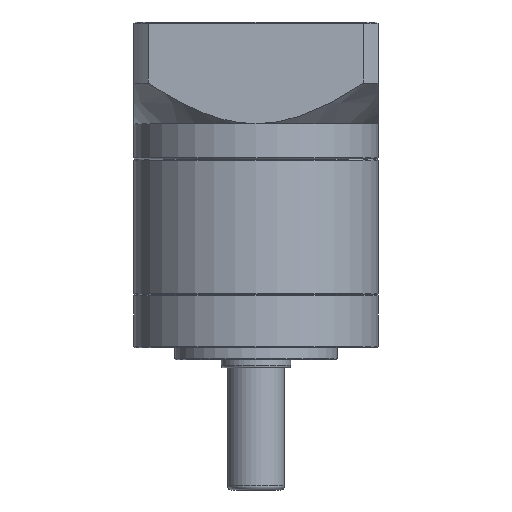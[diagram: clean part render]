
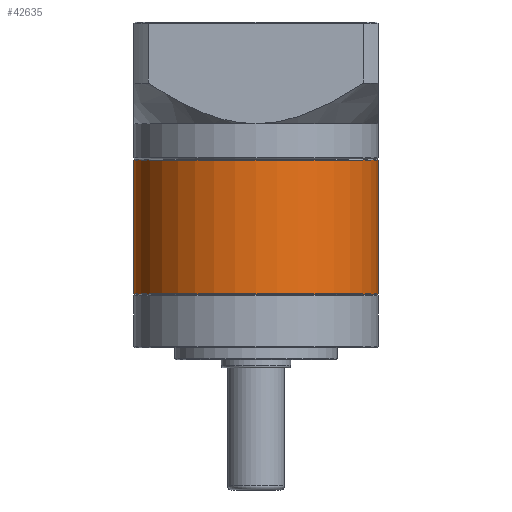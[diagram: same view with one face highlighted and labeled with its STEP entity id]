
A CAD part, front view. The second image highlights one B-rep face of the part: STEP entity #42635.
In plain terms, the highlighted cylindrical face has radius 30 mm (diameter 60 mm), a partial arc.
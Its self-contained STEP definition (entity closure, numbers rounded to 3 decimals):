
#576 = ORIENTED_EDGE ( 'NONE', *, *, #62615, .T. ) ;
#1859 = FACE_OUTER_BOUND ( 'NONE', #74253, .T. ) ;
#3400 = ORIENTED_EDGE ( 'NONE', *, *, #102940, .T. ) ;
#4129 = ORIENTED_EDGE ( 'NONE', *, *, #100525, .F. ) ;
#6912 = DIRECTION ( 'NONE',  ( 0., 0., -1. ) ) ;
#11169 = VERTEX_POINT ( 'NONE', #68672 ) ;
#11431 = DIRECTION ( 'NONE',  ( -1., 0., 0. ) ) ;
#23046 = VERTEX_POINT ( 'NONE', #91708 ) ;
#23268 = CIRCLE ( 'NONE', #31192, 30. ) ;
#28257 = CARTESIAN_POINT ( 'NONE',  ( -62.512, 25.705, -17.419 ) ) ;
#31192 = AXIS2_PLACEMENT_3D ( 'NONE', #97480, #47936, #105794 ) ;
#33701 = CIRCLE ( 'NONE', #52549, 30. ) ;
#36082 = VERTEX_POINT ( 'NONE', #48518 ) ;
#36362 = ORIENTED_EDGE ( 'NONE', *, *, #81211, .T. ) ;
#36606 = DIRECTION ( 'NONE',  ( 1., 0., 0. ) ) ;
#39378 = DIRECTION ( 'NONE',  ( 0., 0., -1. ) ) ;
#42635 = ADVANCED_FACE ( 'NONE', ( #1859 ), #98946, .T. ) ;
#44029 = LINE ( 'NONE', #56496, #87944 ) ;
#45566 = LINE ( 'NONE', #97254, #67508 ) ;
#47936 = DIRECTION ( 'NONE',  ( 0., 0., 1. ) ) ;
#48518 = CARTESIAN_POINT ( 'NONE',  ( -32.512, 25.705, -17.419 ) ) ;
#52549 = AXIS2_PLACEMENT_3D ( 'NONE', #28257, #86226, #36606 ) ;
#55245 = VERTEX_POINT ( 'NONE', #59584 ) ;
#56496 = CARTESIAN_POINT ( 'NONE',  ( -32.512, 25.705, -17.169 ) ) ;
#59584 = CARTESIAN_POINT ( 'NONE',  ( -92.512, 25.705, -17.419 ) ) ;
#62615 = EDGE_CURVE ( 'NONE', #55245, #11169, #45566, .T. ) ;
#67508 = VECTOR ( 'NONE', #39378, 1000. ) ;
#68672 = CARTESIAN_POINT ( 'NONE',  ( -92.512, 25.705, -50.219 ) ) ;
#68997 = CARTESIAN_POINT ( 'NONE',  ( -62.512, 25.705, -17.169 ) ) ;
#74253 = EDGE_LOOP ( 'NONE', ( #4129, #36362, #576, #3400 ) ) ;
#81211 = EDGE_CURVE ( 'NONE', #36082, #55245, #33701, .T. ) ;
#85732 = DIRECTION ( 'NONE',  ( 0., 0., -1. ) ) ;
#86226 = DIRECTION ( 'NONE',  ( 0., 0., -1. ) ) ;
#87944 = VECTOR ( 'NONE', #6912, 1000. ) ;
#91708 = CARTESIAN_POINT ( 'NONE',  ( -32.512, 25.705, -50.219 ) ) ;
#97254 = CARTESIAN_POINT ( 'NONE',  ( -92.512, 25.705, -17.169 ) ) ;
#97480 = CARTESIAN_POINT ( 'NONE',  ( -62.512, 25.705, -50.219 ) ) ;
#98946 = CYLINDRICAL_SURFACE ( 'NONE', #99203, 30. ) ;
#99203 = AXIS2_PLACEMENT_3D ( 'NONE', #68997, #85732, #11431 ) ;
#100525 = EDGE_CURVE ( 'NONE', #36082, #23046, #44029, .T. ) ;
#102940 = EDGE_CURVE ( 'NONE', #11169, #23046, #23268, .T. ) ;
#105794 = DIRECTION ( 'NONE',  ( 1., 0., 0. ) ) ;
